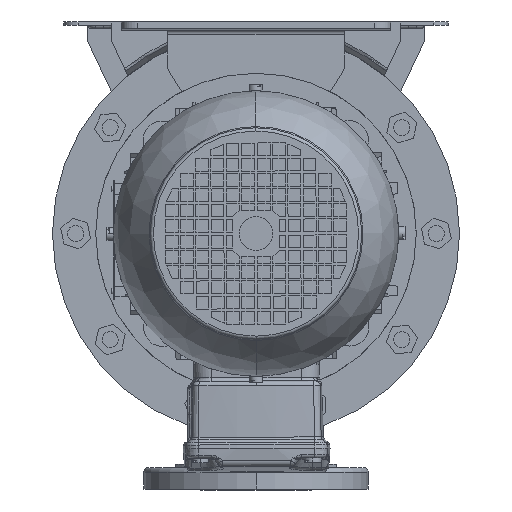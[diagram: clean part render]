
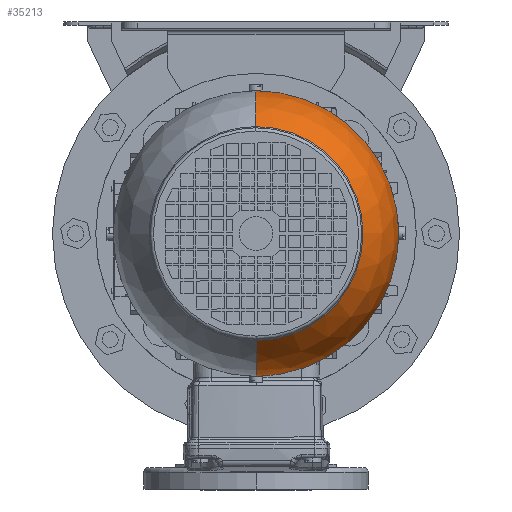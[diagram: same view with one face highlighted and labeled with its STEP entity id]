
A CAD part, front view. The second image highlights one B-rep face of the part: STEP entity #35213.
In plain terms, the highlighted spherical face has radius 89 mm.
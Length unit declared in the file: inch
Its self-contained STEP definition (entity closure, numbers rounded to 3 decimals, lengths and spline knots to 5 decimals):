
#3289 = DIRECTION ( 'NONE',  ( 0., 1., 0. ) ) ;
#10531 = EDGE_CURVE ( 'NONE', #88473, #136993, #30601, .T. ) ;
#11798 = CARTESIAN_POINT ( 'NONE',  ( 0., 0., -3.85827 ) ) ;
#13773 = AXIS2_PLACEMENT_3D ( 'NONE', #97254, #81653, #3289 ) ;
#23495 = DIRECTION ( 'NONE',  ( 0., 0., -1. ) ) ;
#30601 = CIRCLE ( 'NONE', #150130, 3.50394 ) ;
#32000 = CARTESIAN_POINT ( 'NONE',  ( 0., 0., -6.1759 ) ) ;
#35213 = ADVANCED_FACE ( 'NONE', ( #62291 ), #50072, .T. ) ;
#37189 = CIRCLE ( 'NONE', #87218, 3.50394 ) ;
#38614 = DIRECTION ( 'NONE',  ( -1., 0., 0. ) ) ;
#48999 = ORIENTED_EDGE ( 'NONE', *, *, #68098, .T. ) ;
#49234 = DIRECTION ( 'NONE',  ( 0., 0., 1. ) ) ;
#50072 = SPHERICAL_SURFACE ( 'NONE', #156916, 3.50394 ) ;
#59740 = CARTESIAN_POINT ( 'NONE',  ( 0., 2.62795, -6.1759 ) ) ;
#61182 = EDGE_CURVE ( 'NONE', #88534, #136993, #158786, .T. ) ;
#62291 = FACE_OUTER_BOUND ( 'NONE', #97450, .T. ) ;
#65201 = CARTESIAN_POINT ( 'NONE',  ( 0., 0., -3.85827 ) ) ;
#68098 = EDGE_CURVE ( 'NONE', #126282, #88534, #88767, .T. ) ;
#76242 = ORIENTED_EDGE ( 'NONE', *, *, #10531, .F. ) ;
#81653 = DIRECTION ( 'NONE',  ( 1., 0., 0. ) ) ;
#87218 = AXIS2_PLACEMENT_3D ( 'NONE', #65201, #23495, #171392 ) ;
#88473 = VERTEX_POINT ( 'NONE', #138946 ) ;
#88534 = VERTEX_POINT ( 'NONE', #142397 ) ;
#88767 = CIRCLE ( 'NONE', #13773, 3.50394 ) ;
#90119 = DIRECTION ( 'NONE',  ( 0., 1., 0. ) ) ;
#92619 = EDGE_CURVE ( 'NONE', #88473, #126282, #37189, .T. ) ;
#97216 = DIRECTION ( 'NONE',  ( 0., 0., 1. ) ) ;
#97254 = CARTESIAN_POINT ( 'NONE',  ( 0., 0., -3.85827 ) ) ;
#97450 = EDGE_LOOP ( 'NONE', ( #100057, #48999, #145480, #76242 ) ) ;
#100057 = ORIENTED_EDGE ( 'NONE', *, *, #92619, .T. ) ;
#111112 = DIRECTION ( 'NONE',  ( 0., -1., 0. ) ) ;
#116911 = CARTESIAN_POINT ( 'NONE',  ( 0., 0., -3.85827 ) ) ;
#117006 = AXIS2_PLACEMENT_3D ( 'NONE', #32000, #97216, #111112 ) ;
#126282 = VERTEX_POINT ( 'NONE', #136825 ) ;
#131697 = DIRECTION ( 'NONE',  ( 0., 0., 1. ) ) ;
#136825 = CARTESIAN_POINT ( 'NONE',  ( 0., -3.50394, -3.85827 ) ) ;
#136993 = VERTEX_POINT ( 'NONE', #59740 ) ;
#138946 = CARTESIAN_POINT ( 'NONE',  ( 0., 3.50394, -3.85827 ) ) ;
#142397 = CARTESIAN_POINT ( 'NONE',  ( 0., -2.62795, -6.1759 ) ) ;
#145480 = ORIENTED_EDGE ( 'NONE', *, *, #61182, .T. ) ;
#150130 = AXIS2_PLACEMENT_3D ( 'NONE', #116911, #38614, #131697 ) ;
#156916 = AXIS2_PLACEMENT_3D ( 'NONE', #11798, #49234, #90119 ) ;
#158786 = CIRCLE ( 'NONE', #117006, 2.62795 ) ;
#171392 = DIRECTION ( 'NONE',  ( 0., 1., 0. ) ) ;
